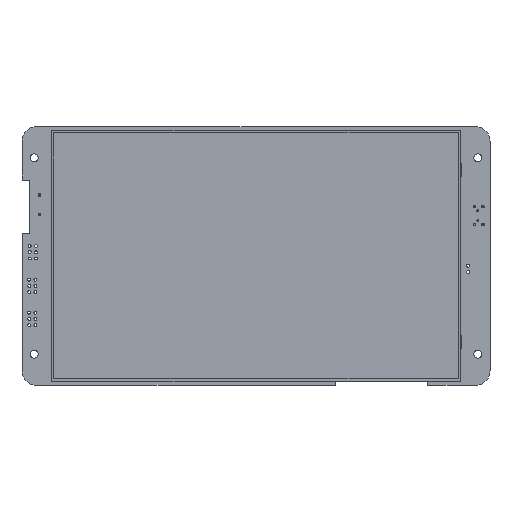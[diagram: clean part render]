
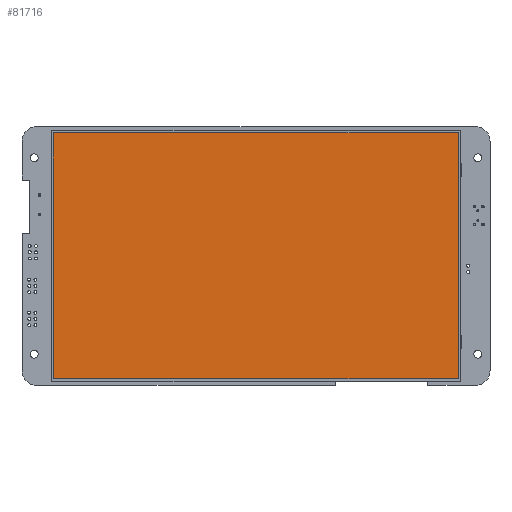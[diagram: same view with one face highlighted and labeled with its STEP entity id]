
A CAD part, top view. The second image highlights one B-rep face of the part: STEP entity #81716.
In plain terms, the highlighted planar face has unit normal (0, 0, 1) as drawn and (0, 1, 0) by its records, which use the part's own axes.
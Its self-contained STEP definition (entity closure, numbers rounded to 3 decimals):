
#8236=FACE_OUTER_BOUND('',#12794,.T.);
#12794=EDGE_LOOP('',(#72467,#72468,#72469,#72470));
#23008=LINE('',#147279,#32319);
#23011=LINE('',#147285,#32322);
#23014=LINE('',#147291,#32325);
#23017=LINE('',#147295,#32328);
#32319=VECTOR('',#105998,10.);
#32322=VECTOR('',#106003,10.);
#32325=VECTOR('',#106008,10.);
#32328=VECTOR('',#106013,10.);
#39901=VERTEX_POINT('',#147276);
#39902=VERTEX_POINT('',#147278);
#39904=VERTEX_POINT('',#147284);
#39906=VERTEX_POINT('',#147290);
#50875=EDGE_CURVE('',#39902,#39901,#23008,.T.);
#50878=EDGE_CURVE('',#39904,#39902,#23011,.T.);
#50881=EDGE_CURVE('',#39906,#39904,#23014,.T.);
#50884=EDGE_CURVE('',#39901,#39906,#23017,.T.);
#72467=ORIENTED_EDGE('',*,*,#50884,.T.);
#72468=ORIENTED_EDGE('',*,*,#50881,.T.);
#72469=ORIENTED_EDGE('',*,*,#50878,.T.);
#72470=ORIENTED_EDGE('',*,*,#50875,.T.);
#77506=PLANE('',#87600);
#81716=ADVANCED_FACE('',(#8236),#77506,.T.);
#87600=AXIS2_PLACEMENT_3D('',#147296,#106014,#106015);
#105998=DIRECTION('',(1.,0.,0.));
#106003=DIRECTION('',(0.,0.,1.));
#106008=DIRECTION('',(-1.,0.,0.));
#106013=DIRECTION('',(0.,0.,-1.));
#106014=DIRECTION('center_axis',(0.,1.,0.));
#106015=DIRECTION('ref_axis',(0.,0.,1.));
#147276=CARTESIAN_POINT('',(164.654,2.1,0.));
#147278=CARTESIAN_POINT('',(0.,2.1,0.));
#147279=CARTESIAN_POINT('',(0.,2.1,0.));
#147284=CARTESIAN_POINT('',(0.,2.1,-100.));
#147285=CARTESIAN_POINT('',(0.,2.1,-100.));
#147290=CARTESIAN_POINT('',(164.654,2.1,-100.));
#147291=CARTESIAN_POINT('',(164.654,2.1,-100.));
#147295=CARTESIAN_POINT('',(164.654,2.1,0.));
#147296=CARTESIAN_POINT('Origin',(82.327,2.1,-50.));
